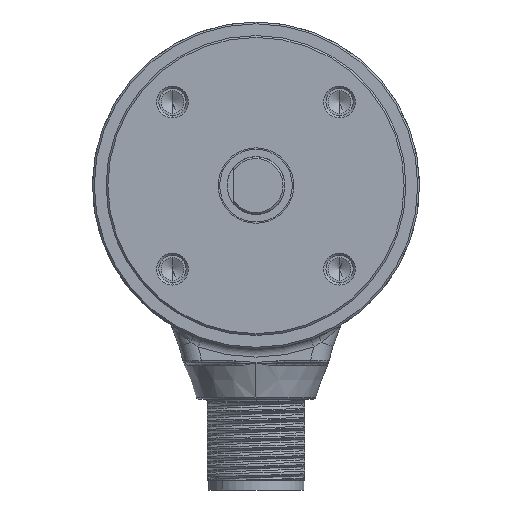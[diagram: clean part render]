
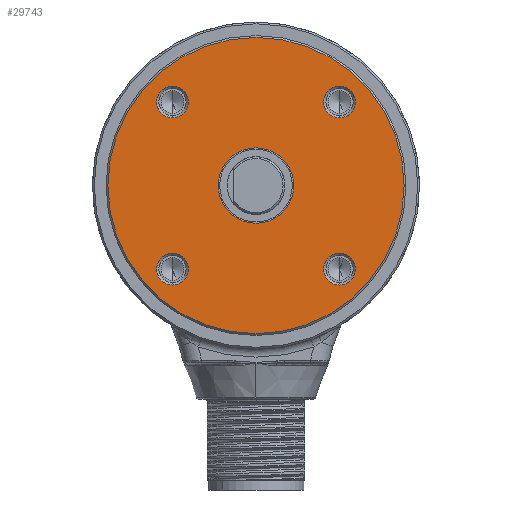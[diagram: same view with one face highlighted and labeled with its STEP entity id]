
A CAD part, left-side view. The second image highlights one B-rep face of the part: STEP entity #29743.
In plain terms, the highlighted planar face has unit normal (-1, 0, 0).
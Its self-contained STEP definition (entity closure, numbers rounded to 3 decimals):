
#6917 = CARTESIAN_POINT ( 'NONE',  ( 0., 0., 4.15 ) ) ;
#6918 = DIRECTION ( 'NONE',  ( 0., 0., 1. ) ) ;
#6920 = DIRECTION ( 'NONE',  ( -1., 0., 0. ) ) ;
#6921 = CARTESIAN_POINT ( 'NONE',  ( 0., 0., 0. ) ) ;
#6922 = AXIS2_PLACEMENT_3D ( 'NONE', #6921, #6920, #6918 ) ;
#6923 = CIRCLE ( 'NONE', #6922, 4.15 ) ;
#6925 = CARTESIAN_POINT ( 'NONE',  ( 0., 0., -4.15 ) ) ;
#7697 = FACE_BOUND ( 'NONE', #29738, .T. ) ;
#7699 = FACE_OUTER_BOUND ( 'NONE', #29734, .T. ) ;
#7701 = FACE_BOUND ( 'NONE', #29730, .T. ) ;
#7703 = FACE_BOUND ( 'NONE', #29752, .T. ) ;
#7704 = FACE_BOUND ( 'NONE', #29748, .T. ) ;
#7706 = FACE_BOUND ( 'NONE', #29744, .T. ) ;
#7708 = DIRECTION ( 'NONE',  ( 0., 0., 1. ) ) ;
#7710 = DIRECTION ( 'NONE',  ( -1., 0., 0. ) ) ;
#7712 = CARTESIAN_POINT ( 'NONE',  ( 0., 0., 0. ) ) ;
#7714 = AXIS2_PLACEMENT_3D ( 'NONE', #7712, #7710, #7708 ) ;
#7715 = CIRCLE ( 'NONE', #7714, 4.15 ) ;
#7722 = DIRECTION ( 'NONE',  ( 0., 0., -1. ) ) ;
#7724 = DIRECTION ( 'NONE',  ( -1., 0., 0. ) ) ;
#7726 = CARTESIAN_POINT ( 'NONE',  ( 0., 0., 0. ) ) ;
#7728 = AXIS2_PLACEMENT_3D ( 'NONE', #7726, #7724, #7722 ) ;
#7730 = CIRCLE ( 'NONE', #7728, 16.3 ) ;
#7736 = DIRECTION ( 'NONE',  ( 0., 0., 1. ) ) ;
#7738 = DIRECTION ( 'NONE',  ( -1., 0., 0. ) ) ;
#7739 = CARTESIAN_POINT ( 'NONE',  ( 0., -9.192, 9.192 ) ) ;
#7741 = AXIS2_PLACEMENT_3D ( 'NONE', #7739, #7738, #7736 ) ;
#7743 = CIRCLE ( 'NONE', #7741, 1.75 ) ;
#7749 = DIRECTION ( 'NONE',  ( 0., 0., 1. ) ) ;
#7751 = DIRECTION ( 'NONE',  ( -1., 0., 0. ) ) ;
#7753 = CARTESIAN_POINT ( 'NONE',  ( 0., -9.192, -9.192 ) ) ;
#7754 = AXIS2_PLACEMENT_3D ( 'NONE', #7753, #7751, #7749 ) ;
#7756 = CIRCLE ( 'NONE', #7754, 1.75 ) ;
#7781 = DIRECTION ( 'NONE',  ( 0., 0., 1. ) ) ;
#7783 = DIRECTION ( 'NONE',  ( -1., 0., 0. ) ) ;
#7786 = CARTESIAN_POINT ( 'NONE',  ( 0., 9.192, -9.192 ) ) ;
#7787 = AXIS2_PLACEMENT_3D ( 'NONE', #7786, #7783, #7781 ) ;
#7789 = CIRCLE ( 'NONE', #7787, 1.75 ) ;
#7796 = DIRECTION ( 'NONE',  ( 0., 0., 1. ) ) ;
#7798 = DIRECTION ( 'NONE',  ( -1., 0., 0. ) ) ;
#7800 = AXIS2_PLACEMENT_3D ( 'NONE', #7810, #7798, #7796 ) ;
#7802 = CIRCLE ( 'NONE', #7800, 1.75 ) ;
#7806 = DIRECTION ( 'NONE',  ( 0., 0., -1. ) ) ;
#7807 = DIRECTION ( 'NONE',  ( 1., 0., 0. ) ) ;
#7808 = CARTESIAN_POINT ( 'NONE',  ( 0., 4.15, 0. ) ) ;
#7809 = AXIS2_PLACEMENT_3D ( 'NONE', #7808, #7807, #7806 ) ;
#7810 = CARTESIAN_POINT ( 'NONE',  ( 0., 9.192, 9.192 ) ) ;
#7811 = PLANE ( 'NONE',  #7809 ) ;
#29157 = VERTEX_POINT ( 'NONE', #50035 ) ;
#29159 = EDGE_CURVE ( 'NONE', #29157, #29160, #50033, .T. ) ;
#29160 = VERTEX_POINT ( 'NONE', #50034 ) ;
#29197 = VERTEX_POINT ( 'NONE', #50138 ) ;
#29199 = EDGE_CURVE ( 'NONE', #29197, #29200, #50190, .T. ) ;
#29200 = VERTEX_POINT ( 'NONE', #50185 ) ;
#29237 = VERTEX_POINT ( 'NONE', #50304 ) ;
#29239 = EDGE_CURVE ( 'NONE', #29237, #29240, #50303, .T. ) ;
#29240 = VERTEX_POINT ( 'NONE', #50298 ) ;
#29278 = VERTEX_POINT ( 'NONE', #50412 ) ;
#29335 = EDGE_CURVE ( 'NONE', #29278, #29336, #50582, .T. ) ;
#29336 = VERTEX_POINT ( 'NONE', #50577 ) ;
#29342 = EDGE_CURVE ( 'NONE', #29343, #29344, #50616, .T. ) ;
#29343 = VERTEX_POINT ( 'NONE', #50607 ) ;
#29344 = VERTEX_POINT ( 'NONE', #50606 ) ;
#29622 = VERTEX_POINT ( 'NONE', #6925 ) ;
#29624 = EDGE_CURVE ( 'NONE', #29622, #29625, #6923, .T. ) ;
#29625 = VERTEX_POINT ( 'NONE', #6917 ) ;
#29728 = EDGE_CURVE ( 'NONE', #29240, #29237, #7756, .T. ) ;
#29729 = ORIENTED_EDGE ( 'NONE', *, *, #29239, .F. ) ;
#29730 = EDGE_LOOP ( 'NONE', ( #29731, #29733 ) ) ;
#29731 = ORIENTED_EDGE ( 'NONE', *, *, #29732, .F. ) ;
#29732 = EDGE_CURVE ( 'NONE', #29336, #29278, #7743, .T. ) ;
#29733 = ORIENTED_EDGE ( 'NONE', *, *, #29335, .F. ) ;
#29734 = EDGE_LOOP ( 'NONE', ( #29735, #29737 ) ) ;
#29735 = ORIENTED_EDGE ( 'NONE', *, *, #29736, .T. ) ;
#29736 = EDGE_CURVE ( 'NONE', #29344, #29343, #7730, .T. ) ;
#29737 = ORIENTED_EDGE ( 'NONE', *, *, #29342, .T. ) ;
#29738 = EDGE_LOOP ( 'NONE', ( #29739, #29740 ) ) ;
#29739 = ORIENTED_EDGE ( 'NONE', *, *, #29742, .F. ) ;
#29740 = ORIENTED_EDGE ( 'NONE', *, *, #29624, .F. ) ;
#29742 = EDGE_CURVE ( 'NONE', #29625, #29622, #7715, .T. ) ;
#29743 = ADVANCED_FACE ( 'NONE', ( #7706, #7704, #7703, #7701, #7699, #7697 ), #7811, .F. ) ;
#29744 = EDGE_LOOP ( 'NONE', ( #29745, #29747 ) ) ;
#29745 = ORIENTED_EDGE ( 'NONE', *, *, #29746, .F. ) ;
#29746 = EDGE_CURVE ( 'NONE', #29160, #29157, #7802, .T. ) ;
#29747 = ORIENTED_EDGE ( 'NONE', *, *, #29159, .F. ) ;
#29748 = EDGE_LOOP ( 'NONE', ( #29749, #29751 ) ) ;
#29749 = ORIENTED_EDGE ( 'NONE', *, *, #29750, .F. ) ;
#29750 = EDGE_CURVE ( 'NONE', #29200, #29197, #7789, .T. ) ;
#29751 = ORIENTED_EDGE ( 'NONE', *, *, #29199, .F. ) ;
#29752 = EDGE_LOOP ( 'NONE', ( #29753, #29729 ) ) ;
#29753 = ORIENTED_EDGE ( 'NONE', *, *, #29728, .F. ) ;
#50029 = DIRECTION ( 'NONE',  ( 0., 0., 1. ) ) ;
#50030 = DIRECTION ( 'NONE',  ( -1., 0., 0. ) ) ;
#50031 = CARTESIAN_POINT ( 'NONE',  ( 0., 9.192, 9.192 ) ) ;
#50032 = AXIS2_PLACEMENT_3D ( 'NONE', #50031, #50030, #50029 ) ;
#50033 = CIRCLE ( 'NONE', #50032, 1.75 ) ;
#50034 = CARTESIAN_POINT ( 'NONE',  ( 0., 9.192, 10.942 ) ) ;
#50035 = CARTESIAN_POINT ( 'NONE',  ( 0., 9.192, 7.442 ) ) ;
#50138 = CARTESIAN_POINT ( 'NONE',  ( 0., 9.192, -10.942 ) ) ;
#50185 = CARTESIAN_POINT ( 'NONE',  ( 0., 9.192, -7.442 ) ) ;
#50186 = DIRECTION ( 'NONE',  ( 0., 0., 1. ) ) ;
#50187 = DIRECTION ( 'NONE',  ( -1., 0., 0. ) ) ;
#50188 = CARTESIAN_POINT ( 'NONE',  ( 0., 9.192, -9.192 ) ) ;
#50189 = AXIS2_PLACEMENT_3D ( 'NONE', #50188, #50187, #50186 ) ;
#50190 = CIRCLE ( 'NONE', #50189, 1.75 ) ;
#50298 = CARTESIAN_POINT ( 'NONE',  ( 0., -9.192, -7.442 ) ) ;
#50299 = DIRECTION ( 'NONE',  ( 0., 0., 1. ) ) ;
#50300 = DIRECTION ( 'NONE',  ( -1., 0., 0. ) ) ;
#50301 = CARTESIAN_POINT ( 'NONE',  ( 0., -9.192, -9.192 ) ) ;
#50302 = AXIS2_PLACEMENT_3D ( 'NONE', #50301, #50300, #50299 ) ;
#50303 = CIRCLE ( 'NONE', #50302, 1.75 ) ;
#50304 = CARTESIAN_POINT ( 'NONE',  ( 0., -9.192, -10.942 ) ) ;
#50412 = CARTESIAN_POINT ( 'NONE',  ( 0., -9.192, 7.442 ) ) ;
#50577 = CARTESIAN_POINT ( 'NONE',  ( 0., -9.192, 10.942 ) ) ;
#50578 = DIRECTION ( 'NONE',  ( 0., 0., 1. ) ) ;
#50579 = DIRECTION ( 'NONE',  ( -1., 0., 0. ) ) ;
#50580 = CARTESIAN_POINT ( 'NONE',  ( 0., -9.192, 9.192 ) ) ;
#50581 = AXIS2_PLACEMENT_3D ( 'NONE', #50580, #50579, #50578 ) ;
#50582 = CIRCLE ( 'NONE', #50581, 1.75 ) ;
#50606 = CARTESIAN_POINT ( 'NONE',  ( 0., 0., -16.3 ) ) ;
#50607 = CARTESIAN_POINT ( 'NONE',  ( 0., 0., 16.3 ) ) ;
#50608 = DIRECTION ( 'NONE',  ( 0., 0., -1. ) ) ;
#50609 = DIRECTION ( 'NONE',  ( -1., 0., 0. ) ) ;
#50610 = CARTESIAN_POINT ( 'NONE',  ( 0., 0., 0. ) ) ;
#50611 = AXIS2_PLACEMENT_3D ( 'NONE', #50610, #50609, #50608 ) ;
#50616 = CIRCLE ( 'NONE', #50611, 16.3 ) ;
